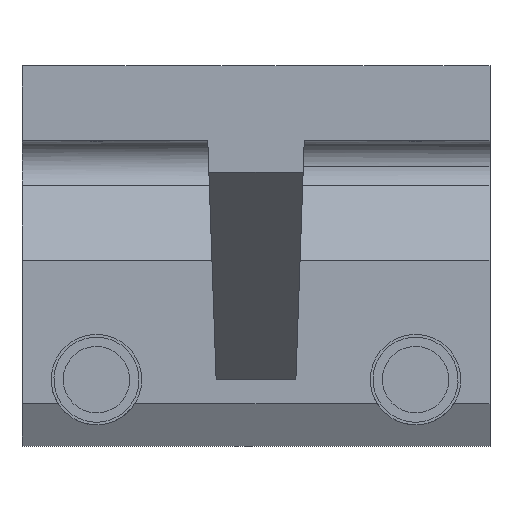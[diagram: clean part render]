
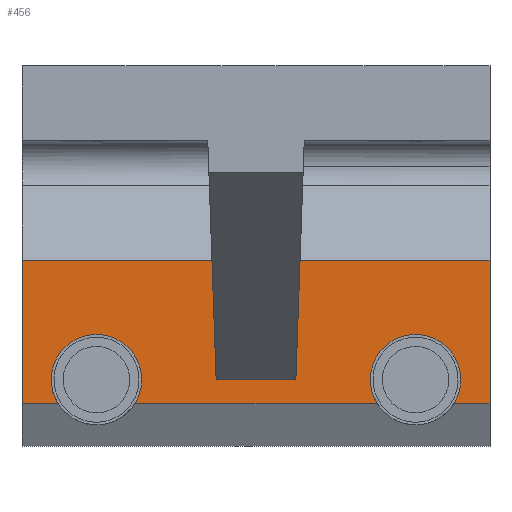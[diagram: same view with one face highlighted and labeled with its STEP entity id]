
A CAD part, front view. The second image highlights one B-rep face of the part: STEP entity #456.
In plain terms, the highlighted planar face has unit normal (0, -1, 0).
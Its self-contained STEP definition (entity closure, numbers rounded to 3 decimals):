
#456=ADVANCED_FACE('Solid.24',(#1071),#1072,.T.);
#1071=FACE_OUTER_BOUND('',#1892,.T.);
#1072=PLANE('',#1893);
#1892=EDGE_LOOP('',(#3122,#3123,#3124,#3125,#3126,#3127,#3128,#3129,#3130,#3131,#3132,#3133,#3134,#3135,#3136,#3137,#3138,#3139,#3140,#3141));
#1893=AXIS2_PLACEMENT_3D('',#3142,#3143,#3144);
#3122=ORIENTED_EDGE('',*,*,#5068,.F.);
#3123=ORIENTED_EDGE('',*,*,#5069,.T.);
#3124=ORIENTED_EDGE('',*,*,#5070,.F.);
#3125=ORIENTED_EDGE('',*,*,#4707,.F.);
#3126=ORIENTED_EDGE('',*,*,#4710,.F.);
#3127=ORIENTED_EDGE('',*,*,#5071,.F.);
#3128=ORIENTED_EDGE('',*,*,#5072,.F.);
#3129=ORIENTED_EDGE('',*,*,#5073,.T.);
#3130=ORIENTED_EDGE('',*,*,#5074,.F.);
#3131=ORIENTED_EDGE('',*,*,#5075,.F.);
#3132=ORIENTED_EDGE('',*,*,#5076,.T.);
#3133=ORIENTED_EDGE('',*,*,#5077,.F.);
#3134=ORIENTED_EDGE('',*,*,#5078,.T.);
#3135=ORIENTED_EDGE('',*,*,#5065,.T.);
#3136=ORIENTED_EDGE('',*,*,#4970,.T.);
#3137=ORIENTED_EDGE('',*,*,#5079,.T.);
#3138=ORIENTED_EDGE('',*,*,#5080,.F.);
#3139=ORIENTED_EDGE('',*,*,#4871,.F.);
#3140=ORIENTED_EDGE('',*,*,#4874,.F.);
#3141=ORIENTED_EDGE('',*,*,#5081,.F.);
#3142=CARTESIAN_POINT('',(0.0,-52.5,0.0));
#3143=DIRECTION('',(0.0,-1.0,0.0));
#3144=DIRECTION('',(0.0,0.0,-1.0));
#4707=EDGE_CURVE('',#5602,#5598,#5604,.T.);
#4710=EDGE_CURVE('',#5606,#5602,#5609,.T.);
#4871=EDGE_CURVE('',#5876,#5872,#5878,.T.);
#4874=EDGE_CURVE('',#5880,#5876,#5883,.T.);
#4970=EDGE_CURVE('',#6047,#6045,#6048,.T.);
#5065=EDGE_CURVE('',#6192,#6047,#6193,.T.);
#5068=EDGE_CURVE('',#6196,#6197,#6198,.T.);
#5069=EDGE_CURVE('',#6196,#6199,#6200,.T.);
#5070=EDGE_CURVE('',#5598,#6199,#6201,.T.);
#5071=EDGE_CURVE('',#6202,#5606,#6203,.T.);
#5072=EDGE_CURVE('',#6204,#6202,#6205,.T.);
#5073=EDGE_CURVE('',#6204,#6206,#6207,.T.);
#5074=EDGE_CURVE('',#6208,#6206,#6209,.T.);
#5075=EDGE_CURVE('',#6210,#6208,#6211,.T.);
#5076=EDGE_CURVE('',#6210,#6212,#6213,.T.);
#5077=EDGE_CURVE('',#6214,#6212,#6215,.T.);
#5078=EDGE_CURVE('',#6214,#6192,#6216,.F.);
#5079=EDGE_CURVE('',#6045,#6217,#6218,.T.);
#5080=EDGE_CURVE('',#5872,#6217,#6219,.T.);
#5081=EDGE_CURVE('',#6197,#5880,#6220,.T.);
#5598=VERTEX_POINT('',#6914);
#5602=VERTEX_POINT('',#6919);
#5604=CIRCLE('',#6922,8.5);
#5606=VERTEX_POINT('',#6924);
#5609=CIRCLE('',#6928,8.5);
#5872=VERTEX_POINT('',#7330);
#5876=VERTEX_POINT('',#7335);
#5878=CIRCLE('',#7338,8.5);
#5880=VERTEX_POINT('',#7340);
#5883=CIRCLE('',#7344,8.5);
#6045=VERTEX_POINT('',#7605);
#6047=VERTEX_POINT('',#7608);
#6048=LINE('',#7609,#7610);
#6192=VERTEX_POINT('',#7919);
#6193=LINE('',#7920,#7921);
#6196=VERTEX_POINT('',#7925);
#6197=VERTEX_POINT('',#7926);
#6198=CIRCLE('',#7927,8.5);
#6199=VERTEX_POINT('',#7928);
#6200=LINE('',#7929,#7930);
#6201=CIRCLE('',#7931,8.5);
#6202=VERTEX_POINT('',#7932);
#6203=CIRCLE('',#7933,8.5);
#6204=VERTEX_POINT('',#7934);
#6205=CIRCLE('',#7935,8.5);
#6206=VERTEX_POINT('',#7936);
#6207=LINE('',#7937,#7938);
#6208=VERTEX_POINT('',#7939);
#6209=LINE('',#7940,#7941);
#6210=VERTEX_POINT('',#7942);
#6211=LINE('',#7943,#7944);
#6212=VERTEX_POINT('',#7945);
#6213=LINE('',#7946,#7947);
#6214=VERTEX_POINT('',#7948);
#6215=LINE('',#7949,#7950);
#6216=LINE('',#7951,#7952);
#6217=VERTEX_POINT('',#7953);
#6218=LINE('',#7954,#7955);
#6219=CIRCLE('',#7956,8.5);
#6220=CIRCLE('',#7957,8.5);
#6914=CARTESIAN_POINT('',(21.5,-52.5,0.));
#6919=CARTESIAN_POINT('',(22.541,-52.5,4.075));
#6922=AXIS2_PLACEMENT_3D('',#8847,#8848,#8849);
#6924=CARTESIAN_POINT('',(38.5,-52.5,0.));
#6928=AXIS2_PLACEMENT_3D('',#8851,#8852,#8853);
#7330=CARTESIAN_POINT('',(-38.5,-52.5,0.));
#7335=CARTESIAN_POINT('',(-37.459,-52.5,4.075));
#7338=AXIS2_PLACEMENT_3D('',#9108,#9109,#9110);
#7340=CARTESIAN_POINT('',(-21.5,-52.5,0.));
#7344=AXIS2_PLACEMENT_3D('',#9112,#9113,#9114);
#7605=CARTESIAN_POINT('',(-44.0,-52.5,-4.5));
#7608=CARTESIAN_POINT('',(-44.0,-52.5,22.453));
#7609=CARTESIAN_POINT('',(-44.0,-52.5,8.977));
#7610=VECTOR('',#9261,1.0);
#7919=CARTESIAN_POINT('',(-8.284,-52.5,22.453));
#7920=CARTESIAN_POINT('',(-26.142,-52.5,22.453));
#7921=VECTOR('',#9443,1.0);
#7925=CARTESIAN_POINT('',(-22.789,-52.5,-4.5));
#7926=CARTESIAN_POINT('',(-22.541,-52.5,-4.075));
#7927=AXIS2_PLACEMENT_3D('',#9445,#9446,#9447);
#7928=CARTESIAN_POINT('',(22.789,-52.5,-4.5));
#7929=CARTESIAN_POINT('',(0.,-52.5,-4.5));
#7930=VECTOR('',#9448,1.0);
#7931=AXIS2_PLACEMENT_3D('',#9449,#9450,#9451);
#7932=CARTESIAN_POINT('',(37.459,-52.5,-4.075));
#7933=AXIS2_PLACEMENT_3D('',#9452,#9453,#9454);
#7934=CARTESIAN_POINT('',(37.211,-52.5,-4.5));
#7935=AXIS2_PLACEMENT_3D('',#9455,#9456,#9457);
#7936=CARTESIAN_POINT('',(44.0,-52.5,-4.5));
#7937=CARTESIAN_POINT('',(40.606,-52.5,-4.5));
#7938=VECTOR('',#9458,1.0);
#7939=CARTESIAN_POINT('',(44.0,-52.5,22.453));
#7940=CARTESIAN_POINT('',(44.0,-52.5,8.977));
#7941=VECTOR('',#9459,1.0);
#7942=CARTESIAN_POINT('',(8.284,-52.5,22.453));
#7943=CARTESIAN_POINT('',(26.142,-52.5,22.453));
#7944=VECTOR('',#9460,1.0);
#7945=CARTESIAN_POINT('',(7.5,-52.5,0.0));
#7946=CARTESIAN_POINT('',(7.892,-52.5,11.227));
#7947=VECTOR('',#9461,1.0);
#7948=CARTESIAN_POINT('',(-7.5,-52.5,0.0));
#7949=CARTESIAN_POINT('',(0.,-52.5,0.0));
#7950=VECTOR('',#9462,1.0);
#7951=CARTESIAN_POINT('',(-7.892,-52.5,11.227));
#7952=VECTOR('',#9463,1.0);
#7953=CARTESIAN_POINT('',(-37.211,-52.5,-4.5));
#7954=CARTESIAN_POINT('',(-40.606,-52.5,-4.5));
#7955=VECTOR('',#9464,1.0);
#7956=AXIS2_PLACEMENT_3D('',#9465,#9466,#9467);
#7957=AXIS2_PLACEMENT_3D('',#9468,#9469,#9470);
#8847=CARTESIAN_POINT('',(30.0,-52.5,0.));
#8848=DIRECTION('',(0.0,-1.0,0.0));
#8849=DIRECTION('',(0.0,0.0,-1.0));
#8851=CARTESIAN_POINT('',(30.0,-52.5,0.));
#8852=DIRECTION('',(0.0,-1.0,0.0));
#8853=DIRECTION('',(0.0,0.0,-1.0));
#9108=CARTESIAN_POINT('',(-30.0,-52.5,0.));
#9109=DIRECTION('',(0.0,-1.0,0.0));
#9110=DIRECTION('',(0.0,0.0,-1.0));
#9112=CARTESIAN_POINT('',(-30.0,-52.5,0.));
#9113=DIRECTION('',(0.0,-1.0,0.0));
#9114=DIRECTION('',(0.0,0.0,-1.0));
#9261=DIRECTION('',(0.0,0.0,-1.0));
#9443=DIRECTION('',(-1.0,0.0,0.0));
#9445=CARTESIAN_POINT('',(-30.0,-52.5,0.));
#9446=DIRECTION('',(0.0,-1.0,0.0));
#9447=DIRECTION('',(0.0,0.0,-1.0));
#9448=DIRECTION('',(1.0,0.0,0.0));
#9449=CARTESIAN_POINT('',(30.0,-52.5,0.));
#9450=DIRECTION('',(0.0,-1.0,0.0));
#9451=DIRECTION('',(0.0,0.0,-1.0));
#9452=CARTESIAN_POINT('',(30.0,-52.5,0.));
#9453=DIRECTION('',(0.0,-1.0,0.0));
#9454=DIRECTION('',(0.0,0.0,-1.0));
#9455=CARTESIAN_POINT('',(30.0,-52.5,0.));
#9456=DIRECTION('',(0.0,-1.0,0.0));
#9457=DIRECTION('',(0.0,0.0,-1.0));
#9458=DIRECTION('',(1.0,0.0,0.0));
#9459=DIRECTION('',(0.0,0.0,-1.0));
#9460=DIRECTION('',(1.0,0.0,0.0));
#9461=DIRECTION('',(-0.035,0.0,-0.999));
#9462=DIRECTION('',(1.0,0.0,0.0));
#9463=DIRECTION('',(0.035,0.0,-0.999));
#9464=DIRECTION('',(1.0,0.0,0.0));
#9465=CARTESIAN_POINT('',(-30.0,-52.5,0.));
#9466=DIRECTION('',(0.0,-1.0,0.0));
#9467=DIRECTION('',(0.0,0.0,-1.0));
#9468=CARTESIAN_POINT('',(-30.0,-52.5,0.));
#9469=DIRECTION('',(0.0,-1.0,0.0));
#9470=DIRECTION('',(0.0,0.0,-1.0));
